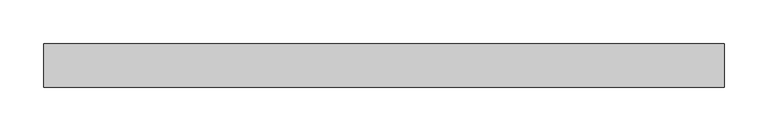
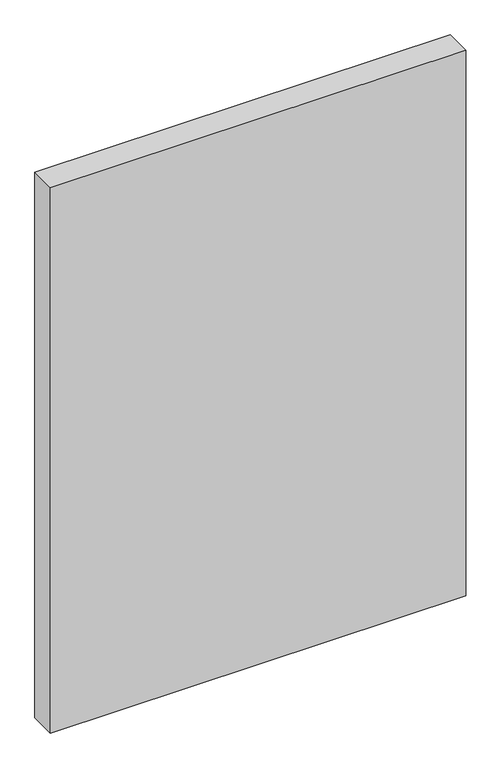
"""IFC4 building model written with IfcOpenShell, lengths in millimetres: plate geometry, Системная панель : Стекло(50мм)."""

import ifcopenshell
import ifcopenshell.guid

model = None  # the IFC model being written
_history = None  # IfcOwnerHistory: only IFC2X3 demands one
_inside = {}  # id of a spatial element -> (the spatial element, [elements in it])
_under = {}  # id of a project, library or spatial element -> (it, [spatial elements below it])
_declared = {}  # id of a project -> (the project, [libraries it declares])
_typed = {}  # id of a type object -> (the type object, [elements of that type])
_made_of = {}  # id of a material, layer set ... -> (it, [elements and type objects made of it])


def new_model(schema):
    """Start an empty IFC model of exactly this schema.

    Asked for "IFC4X3", IfcOpenShell would pick the latest addendum, in which some entities
    have other attributes; the version numbers below select the first issue.
    IFC2X3 requires an IfcOwnerHistory on every rooted entity: one is made here for all.
    """
    global model, _history
    if schema == "IFC4X3":
        model = ifcopenshell.file(schema_version=(4, 3, 0, 0))
    else:
        model = ifcopenshell.file(schema=schema)
    _inside.clear()
    _under.clear()
    _declared.clear()
    _typed.clear()
    _made_of.clear()
    _history = None
    if model.schema == "IFC2X3":
        org = make("IfcOrganization", Name="unknown")
        user = make(
            "IfcPersonAndOrganization",
            ThePerson=make("IfcPerson", FamilyName="unknown"),
            TheOrganization=org,
        )
        app = make(
            "IfcApplication",
            ApplicationDeveloper=org,
            Version="unknown",
            ApplicationFullName="unknown",
            ApplicationIdentifier="unknown",
        )
        _history = make(
            "IfcOwnerHistory",
            OwningUser=user,
            OwningApplication=app,
            ChangeAction="ADDED",
            CreationDate=0,
        )
    return model


def make(cls, **values):
    """One entity of the class cls with the attributes given. An attribute that is None is left unset."""
    return model.create_entity(
        cls, **{name: value for name, value in values.items() if value is not None}
    )


def rooted(cls, **values):
    """An entity with a GlobalId (a new one), such as an element, a storey or a relation."""
    return make(cls, GlobalId=ifcopenshell.guid.new(), OwnerHistory=_history, **values)


def si_unit(unit_type, name, prefix=None):
    """IfcSIUnit, for example si_unit("LENGTHUNIT", "METRE", prefix="MILLI")."""
    return make("IfcSIUnit", UnitType=unit_type, Prefix=prefix, Name=name)


def assignment(units):
    """IfcUnitAssignment: the units of a project."""
    return None if units is None else make("IfcUnitAssignment", Units=units)


def point(xyz):
    """IfcCartesianPoint."""
    return None if xyz is None else make("IfcCartesianPoint", Coordinates=xyz)


def direction(xyz):
    """IfcDirection."""
    return None if xyz is None else make("IfcDirection", DirectionRatios=xyz)


def frame(location, z_axis=None, x_axis=None):
    """IfcAxis2Placement3D, a coordinate frame: its origin and axes. An axis left out is left unset."""
    return make(
        "IfcAxis2Placement3D",
        Location=point(location),
        Axis=direction(z_axis),
        RefDirection=direction(x_axis),
    )


def origin():
    """The frame at (0, 0, 0) with its axes left unset."""
    return frame((0.0, 0.0, 0.0))


def origin_with_axes():
    """The frame at (0, 0, 0) with the z axis (0, 0, 1) and the x axis (1, 0, 0) written out."""
    return frame((0.0, 0.0, 0.0), z_axis=(0.0, 0.0, 1.0), x_axis=(1.0, 0.0, 0.0))


def place(relative_to, where):
    """IfcLocalPlacement: puts the frame where relative to a parent placement (None: the world)."""
    return make(
        "IfcLocalPlacement", PlacementRelTo=relative_to, RelativePlacement=where
    )


def context(
    kind, dimensions, precision=None, world=None, true_north=None, identifier=None
):
    """IfcGeometricRepresentationContext, for example the 3D "Model" context."""
    return make(
        "IfcGeometricRepresentationContext",
        ContextIdentifier=identifier,
        ContextType=kind,
        CoordinateSpaceDimension=dimensions,
        Precision=precision,
        WorldCoordinateSystem=world,
        TrueNorth=true_north,
    )


def project(units=None, contexts=None):
    """IfcProject with its units and contexts."""
    return rooted(
        "IfcProject",
        Name="project",
        RepresentationContexts=contexts,
        UnitsInContext=assignment(units),
    )


def spatial(cls, under=None, at=None, **own):
    """A site, building, storey or space (cls), placed at a placement, below another one or the project."""
    s = rooted(cls, ObjectPlacement=at, **own)
    if under is not None:
        _under.setdefault(under.id(), (under, []))[1].append(s)
    return s


def polyline(points):
    """IfcPolyline through the points."""
    return make("IfcPolyline", Points=[point(p) for p in points])


def outline(outer, holes=None, kind="AREA"):
    """IfcArbitraryClosedProfileDef: a profile drawn as a closed curve; with holes, ...WithVoids."""
    if holes is None:
        return make("IfcArbitraryClosedProfileDef", ProfileType=kind, OuterCurve=outer)
    return make(
        "IfcArbitraryProfileDefWithVoids",
        ProfileType=kind,
        OuterCurve=outer,
        InnerCurves=holes,
    )


def extrude(swept, where, along, depth):
    """IfcExtrudedAreaSolid: the profile swept, set in the frame where, extruded along a direction by depth."""
    return make(
        "IfcExtrudedAreaSolid",
        SweptArea=swept,
        Position=where,
        ExtrudedDirection=direction(along),
        Depth=depth,
    )


def shape(context_of_items, identifier, shape_type, items):
    """IfcShapeRepresentation: the items that make up one representation, for example the "Body"."""
    return make(
        "IfcShapeRepresentation",
        ContextOfItems=context_of_items,
        RepresentationIdentifier=identifier,
        RepresentationType=shape_type,
        Items=items,
    )


def source(mapping_origin, context_of_items, identifier, shape_type, items):
    """IfcRepresentationMap: a shape defined once, which mapped items show again and again."""
    return make(
        "IfcRepresentationMap",
        MappingOrigin=mapping_origin,
        MappedRepresentation=shape(context_of_items, identifier, shape_type, items),
    )


def transform(
    local_origin,
    x_axis=None,
    y_axis=None,
    z_axis=None,
    scale=None,
    scale2=None,
    scale3=None,
    uniform=True,
):
    """IfcCartesianTransformationOperator3D, or its non-uniform kind. x_axis, y_axis, z_axis: its Axis1, 2, 3."""
    if uniform:
        return make(
            "IfcCartesianTransformationOperator3D",
            Axis1=direction(x_axis),
            Axis2=direction(y_axis),
            LocalOrigin=point(local_origin),
            Scale=scale,
            Axis3=direction(z_axis),
        )
    return make(
        "IfcCartesianTransformationOperator3DnonUniform",
        Axis1=direction(x_axis),
        Axis2=direction(y_axis),
        LocalOrigin=point(local_origin),
        Scale=scale,
        Axis3=direction(z_axis),
        Scale2=scale2,
        Scale3=scale3,
    )


def mapped(mapping_source, mapping_target):
    """IfcMappedItem: shows the shape of a source again, moved by a transform."""
    return make(
        "IfcMappedItem", MappingSource=mapping_source, MappingTarget=mapping_target
    )


def made_of(thing, what):
    """Note that an element or type object is made of a material, layer set ...; save() writes the relation."""
    if what is not None:
        _made_of.setdefault(what.id(), (what, []))[1].append(thing)
    return thing


def element(
    cls,
    number,
    at=None,
    inside=None,
    cuts=None,
    type_object=None,
    material=None,
    context=None,
    identifier="Body",
    shape_type=None,
    held_by="IfcProductDefinitionShape",
    body=None,
    shapes=None,
    **own,
):
    """One element of the class cls, such as IfcWall. Its Tag is "e" and its number.

    at: its placement. inside: the storey or other place that contains it. cuts: it is an
    opening in that element (IfcRelVoidsElement). A single representation is given by context,
    identifier, shape_type and body (its items); several are given by shapes. held_by: the class
    of the entity that holds the representations. save() writes the other relations.
    """
    e = rooted(cls, Tag="e%d" % number, ObjectPlacement=at, **own)
    if body is not None:
        shapes = [shape(context, identifier, shape_type, body)]
    if shapes is not None:
        e.Representation = make(held_by, Representations=shapes)
    if inside is not None:
        _inside.setdefault(inside.id(), (inside, []))[1].append(e)
    if cuts is not None:
        rooted(
            "IfcRelVoidsElement", RelatingBuildingElement=cuts, RelatedOpeningElement=e
        )
    if type_object is not None:
        _typed.setdefault(type_object.id(), (type_object, []))[1].append(e)
    return made_of(e, material)


def aggregate(whole, parts):
    """IfcRelAggregates: a whole, such as a stair, and the parts it consists of."""
    return rooted("IfcRelAggregates", RelatingObject=whole, RelatedObjects=parts)


def save(model, path):
    """Write the relations noted so far, then the file.

    IfcRelAggregates (storeys below a building ...), IfcRelContainedInSpatialStructure (elements
    in a storey), IfcRelDefinesByType, IfcRelAssociatesMaterial and IfcRelDeclares: one each for
    every whole, place, type object, material and project.
    """
    for whole, parts in _under.values():
        aggregate(whole, parts)
    for where, things in _inside.values():
        rooted(
            "IfcRelContainedInSpatialStructure",
            RelatedElements=things,
            RelatingStructure=where,
        )
    for kind, things in _typed.values():
        rooted("IfcRelDefinesByType", RelatedObjects=things, RelatingType=kind)
    for what, things in _made_of.values():
        rooted("IfcRelAssociatesMaterial", RelatedObjects=things, RelatingMaterial=what)
    for by, libraries in _declared.values():
        rooted("IfcRelDeclares", RelatingContext=by, RelatedDefinitions=libraries)
    model.write(path)


def plate_1bb4b435(model_context):
    return source(origin(), model_context, "Body", "SweptSolid", [
        extrude(outline(polyline([(390.9084215, -25.0), (-390.9084215, -25.0), (-390.9084215, 25.0), (390.9084215, 25.0), (390.9084215, -25.0)])), origin_with_axes(), (0.0, 0.0, 1.0), 1085.0),
    ])


if __name__ == "__main__":
    model = new_model("IFC4")
    model_context = context("Model", 3, world=origin())
    ifc_project = project(units=[si_unit("LENGTHUNIT", "METRE", prefix="MILLI")], contexts=[model_context])
    site = spatial("IfcSite", under=ifc_project)
    building = spatial("IfcBuilding", under=site)
    placement = place(None, origin())
    plate_shape = plate_1bb4b435(model_context)
    element("IfcPlate", 1, ObjectType="Системная панель : Стекло(50мм)", at=placement, inside=building, context=model_context, shape_type="MappedRepresentation", body=[
        mapped(plate_shape, transform((0.0, 0.0, 0.0), x_axis=(1.0, 0.0, 0.0), y_axis=(0.0, 1.0, 0.0), z_axis=(0.0, 0.0, 1.0))),
    ])
    save(model, "model.ifc")
